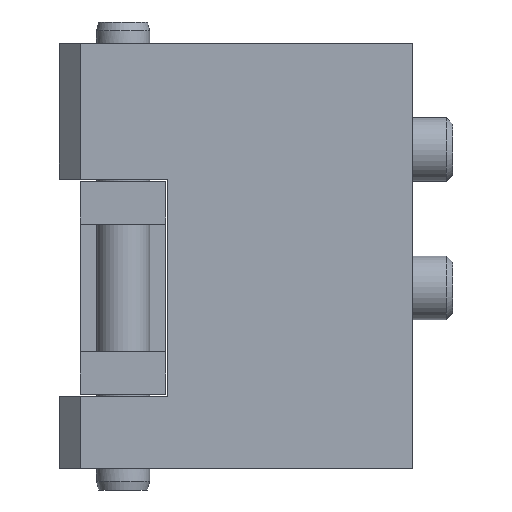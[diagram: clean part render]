
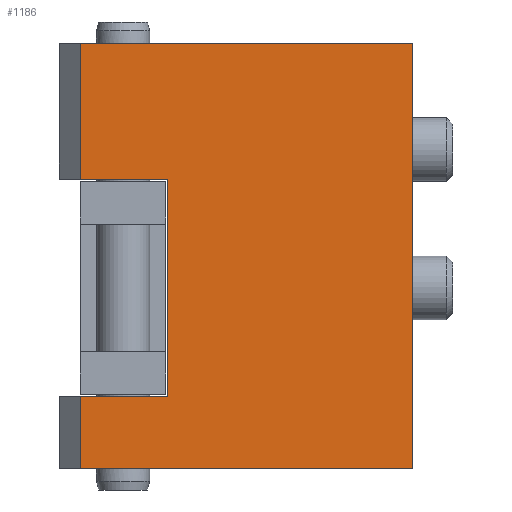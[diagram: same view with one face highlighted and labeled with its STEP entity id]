
A CAD part, left-side view. The second image highlights one B-rep face of the part: STEP entity #1186.
In plain terms, the highlighted planar face has unit normal (-1, 0, 0).
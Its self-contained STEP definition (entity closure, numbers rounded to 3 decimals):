
#78=LINE('',#1943,#167);
#81=LINE('',#1950,#170);
#91=LINE('',#1970,#180);
#95=LINE('',#1981,#184);
#96=LINE('',#1983,#185);
#97=LINE('',#1985,#186);
#98=LINE('',#1987,#187);
#99=LINE('',#1988,#188);
#167=VECTOR('',#1541,4.1);
#170=VECTOR('',#1546,4.1);
#180=VECTOR('',#1562,10.2);
#184=VECTOR('',#1572,3.4);
#185=VECTOR('',#1573,15.62);
#186=VECTOR('',#1574,20.);
#187=VECTOR('',#1575,15.62);
#188=VECTOR('',#1576,6.4);
#240=PLANE('',#1296);
#370=FACE_OUTER_BOUND('',#470,.T.);
#470=EDGE_LOOP('',(#985,#986,#987,#988,#989,#990,#991,#992));
#601=VERTEX_POINT('',#1940);
#602=VERTEX_POINT('',#1942);
#603=VERTEX_POINT('',#1946);
#605=VERTEX_POINT('',#1949);
#616=VERTEX_POINT('',#1980);
#617=VERTEX_POINT('',#1982);
#618=VERTEX_POINT('',#1984);
#619=VERTEX_POINT('',#1986);
#727=EDGE_CURVE('',#602,#601,#78,.T.);
#730=EDGE_CURVE('',#605,#603,#81,.T.);
#741=EDGE_CURVE('',#601,#605,#91,.T.);
#746=EDGE_CURVE('',#616,#603,#95,.T.);
#747=EDGE_CURVE('',#616,#617,#96,.T.);
#748=EDGE_CURVE('',#617,#618,#97,.T.);
#749=EDGE_CURVE('',#618,#619,#98,.T.);
#750=EDGE_CURVE('',#602,#619,#99,.T.);
#985=ORIENTED_EDGE('',*,*,#727,.T.);
#986=ORIENTED_EDGE('',*,*,#741,.T.);
#987=ORIENTED_EDGE('',*,*,#730,.T.);
#988=ORIENTED_EDGE('',*,*,#746,.F.);
#989=ORIENTED_EDGE('',*,*,#747,.T.);
#990=ORIENTED_EDGE('',*,*,#748,.T.);
#991=ORIENTED_EDGE('',*,*,#749,.T.);
#992=ORIENTED_EDGE('',*,*,#750,.F.);
#1186=ADVANCED_FACE('',(#370),#240,.T.);
#1296=AXIS2_PLACEMENT_3D('',#1979,#1570,#1571);
#1541=DIRECTION('',(0.,-1.,0.));
#1546=DIRECTION('',(0.,1.,0.));
#1562=DIRECTION('',(0.,0.,-1.));
#1570=DIRECTION('center_axis',(-1.,0.,0.));
#1571=DIRECTION('ref_axis',(0.,0.,1.));
#1572=DIRECTION('',(0.,0.,1.));
#1573=DIRECTION('',(0.,-1.,0.));
#1574=DIRECTION('',(0.,0.,1.));
#1575=DIRECTION('',(0.,1.,0.));
#1576=DIRECTION('',(0.,0.,1.));
#1940=CARTESIAN_POINT('',(-21.2,34.818,3.6));
#1942=CARTESIAN_POINT('',(-21.2,38.918,3.6));
#1943=CARTESIAN_POINT('',(-21.2,29.297,3.6));
#1946=CARTESIAN_POINT('',(-21.2,38.918,-6.6));
#1949=CARTESIAN_POINT('',(-21.2,34.818,-6.6));
#1950=CARTESIAN_POINT('',(-21.2,29.297,-6.6));
#1970=CARTESIAN_POINT('',(-21.2,34.818,-3.3));
#1979=CARTESIAN_POINT('Origin',(-21.2,23.298,0.));
#1980=CARTESIAN_POINT('',(-21.2,38.918,-10.));
#1981=CARTESIAN_POINT('',(-21.2,38.918,0.));
#1982=CARTESIAN_POINT('',(-21.2,23.298,-10.));
#1983=CARTESIAN_POINT('',(-21.2,38.918,-10.));
#1984=CARTESIAN_POINT('',(-21.2,23.298,10.));
#1985=CARTESIAN_POINT('',(-21.2,23.298,0.));
#1986=CARTESIAN_POINT('',(-21.2,38.918,10.));
#1987=CARTESIAN_POINT('',(-21.2,38.918,10.));
#1988=CARTESIAN_POINT('',(-21.2,38.918,0.));
